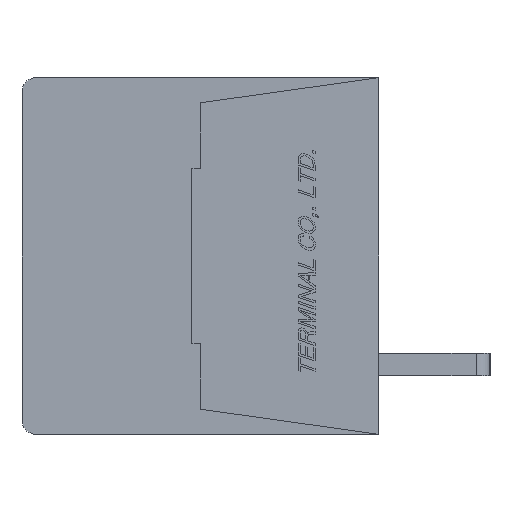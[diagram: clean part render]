
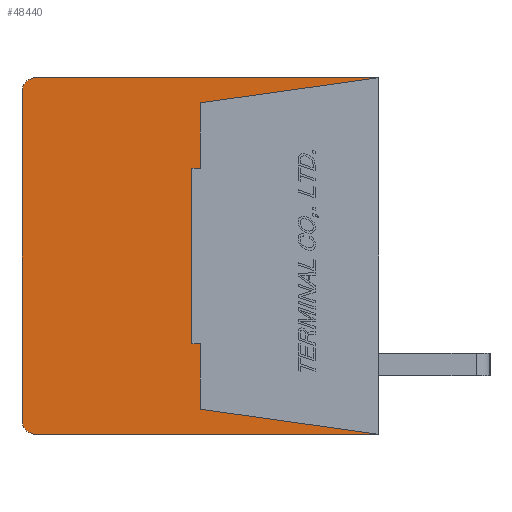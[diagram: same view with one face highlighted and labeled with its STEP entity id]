
A CAD part, left-side view. The second image highlights one B-rep face of the part: STEP entity #48440.
In plain terms, the highlighted planar face has unit normal (-1, 0, 0).
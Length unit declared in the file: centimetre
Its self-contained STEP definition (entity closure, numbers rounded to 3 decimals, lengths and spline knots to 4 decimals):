
#2479=CIRCLE('',#82952,0.05);
#2480=CIRCLE('',#82955,0.05);
#4378=VERTEX_POINT('',#67407);
#4379=VERTEX_POINT('',#67409);
#4380=VERTEX_POINT('',#67413);
#4381=VERTEX_POINT('',#67417);
#4382=VERTEX_POINT('',#67421);
#4383=VERTEX_POINT('',#67425);
#4384=VERTEX_POINT('',#67428);
#4385=VERTEX_POINT('',#67430);
#4386=VERTEX_POINT('',#67432);
#4387=VERTEX_POINT('',#67434);
#4388=VERTEX_POINT('',#67436);
#4389=VERTEX_POINT('',#67438);
#9447=VECTOR('',#56208,1.);
#9451=VECTOR('',#56217,1.);
#9454=VECTOR('',#56225,1.);
#9455=VECTOR('',#56226,1.);
#9456=VECTOR('',#56227,1.);
#9457=VECTOR('',#56228,1.);
#9458=VECTOR('',#56229,1.);
#9459=VECTOR('',#56230,1.);
#9460=VECTOR('',#56231,1.);
#9461=VECTOR('',#56232,1.);
#15142=LINE('',#67408,#9447);
#15146=LINE('',#67418,#9451);
#15149=LINE('',#67426,#9454);
#15150=LINE('',#67427,#9455);
#15151=LINE('',#67429,#9456);
#15152=LINE('',#67431,#9457);
#15153=LINE('',#67433,#9458);
#15154=LINE('',#67435,#9459);
#15155=LINE('',#67437,#9460);
#15156=LINE('',#67439,#9461);
#21519=EDGE_CURVE('',#4379,#4378,#15142,.T.);
#21522=EDGE_CURVE('',#4380,#4378,#2479,.T.);
#21524=EDGE_CURVE('',#4380,#4381,#15146,.T.);
#21526=EDGE_CURVE('',#4382,#4381,#2480,.T.);
#21528=EDGE_CURVE('',#4382,#4383,#15149,.T.);
#21529=EDGE_CURVE('',#4384,#4379,#15150,.T.);
#21530=EDGE_CURVE('',#4383,#4385,#15151,.T.);
#21531=EDGE_CURVE('',#4385,#4386,#15152,.T.);
#21532=EDGE_CURVE('',#4386,#4387,#15153,.T.);
#21533=EDGE_CURVE('',#4387,#4388,#15154,.T.);
#21534=EDGE_CURVE('',#4388,#4389,#15155,.T.);
#21535=EDGE_CURVE('',#4389,#4384,#15156,.T.);
#31250=ORIENTED_EDGE('',*,*,#21529,.T.);
#31251=ORIENTED_EDGE('',*,*,#21519,.T.);
#31252=ORIENTED_EDGE('',*,*,#21522,.F.);
#31253=ORIENTED_EDGE('',*,*,#21524,.T.);
#31254=ORIENTED_EDGE('',*,*,#21526,.F.);
#31255=ORIENTED_EDGE('',*,*,#21528,.T.);
#31256=ORIENTED_EDGE('',*,*,#21530,.T.);
#31257=ORIENTED_EDGE('',*,*,#21531,.T.);
#31258=ORIENTED_EDGE('',*,*,#21532,.T.);
#31259=ORIENTED_EDGE('',*,*,#21533,.T.);
#31260=ORIENTED_EDGE('',*,*,#21534,.T.);
#31261=ORIENTED_EDGE('',*,*,#21535,.T.);
#42186=EDGE_LOOP('',(#31250,#31251,#31252,#31253,#31254,#31255,#31256,#31257,
#31258,#31259,#31260,#31261));
#45379=FACE_BOUND('',#42186,.T.);
#48440=ADVANCED_FACE('',(#45379),#51086,.F.);
#51086=PLANE('',#82949);
#56094=DIRECTION('',(1.,0.,0.));
#56208=DIRECTION('',(0.,1.,0.));
#56213=DIRECTION('',(1.,0.,0.));
#56214=DIRECTION('',(0.,0.,-0.05));
#56217=DIRECTION('',(0.,0.,-1.));
#56221=DIRECTION('',(1.,0.,0.));
#56222=DIRECTION('',(0.,0.,-0.05));
#56225=DIRECTION('',(0.,-1.,0.));
#56226=DIRECTION('',(0.,-0.99,0.139));
#56227=DIRECTION('',(0.,0.99,0.139));
#56228=DIRECTION('',(0.,0.,1.));
#56229=DIRECTION('',(0.,1.,0.));
#56230=DIRECTION('',(0.,0.,1.));
#56231=DIRECTION('',(0.,-1.,0.));
#56232=DIRECTION('',(0.,0.,1.));
#66974=CARTESIAN_POINT('',(-0.889,0.6345,0.));
#67407=CARTESIAN_POINT('',(-0.889,1.23,0.64));
#67408=CARTESIAN_POINT('',(-0.889,0.,0.64));
#67409=CARTESIAN_POINT('',(-0.889,0.,0.64));
#67413=CARTESIAN_POINT('',(-0.889,1.28,0.59));
#67414=CARTESIAN_POINT('',(-0.889,1.23,0.59));
#67417=CARTESIAN_POINT('',(-0.889,1.28,-0.59));
#67418=CARTESIAN_POINT('',(-0.889,1.28,0.59));
#67421=CARTESIAN_POINT('',(-0.889,1.23,-0.64));
#67422=CARTESIAN_POINT('',(-0.889,1.23,-0.59));
#67425=CARTESIAN_POINT('',(-0.889,0.,-0.64));
#67426=CARTESIAN_POINT('',(-0.889,1.23,-0.64));
#67427=CARTESIAN_POINT('',(-0.889,0.64,0.55));
#67428=CARTESIAN_POINT('',(-0.889,0.64,0.55));
#67429=CARTESIAN_POINT('',(-0.889,0.,-0.64));
#67430=CARTESIAN_POINT('',(-0.889,0.64,-0.55));
#67431=CARTESIAN_POINT('',(-0.889,0.64,-0.55));
#67432=CARTESIAN_POINT('',(-0.889,0.64,-0.315));
#67433=CARTESIAN_POINT('',(-0.889,0.64,-0.315));
#67434=CARTESIAN_POINT('',(-0.889,0.67,-0.315));
#67435=CARTESIAN_POINT('',(-0.889,0.67,-0.315));
#67436=CARTESIAN_POINT('',(-0.889,0.67,0.315));
#67437=CARTESIAN_POINT('',(-0.889,0.67,0.315));
#67438=CARTESIAN_POINT('',(-0.889,0.64,0.315));
#67439=CARTESIAN_POINT('',(-0.889,0.64,0.315));
#82949=AXIS2_PLACEMENT_3D('',#66974,#56094,$);
#82952=AXIS2_PLACEMENT_3D('',#67414,#56213,#56214);
#82955=AXIS2_PLACEMENT_3D('',#67422,#56221,#56222);
